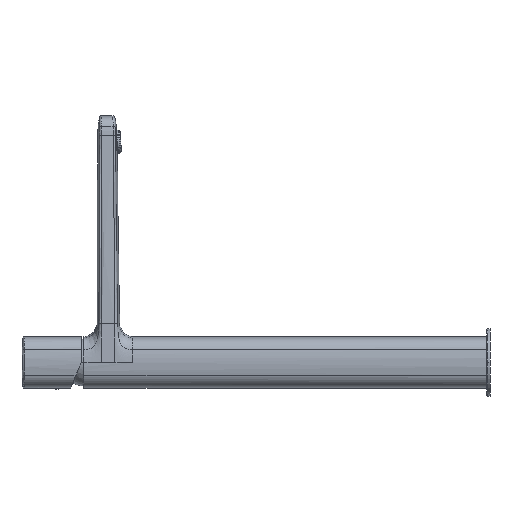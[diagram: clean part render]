
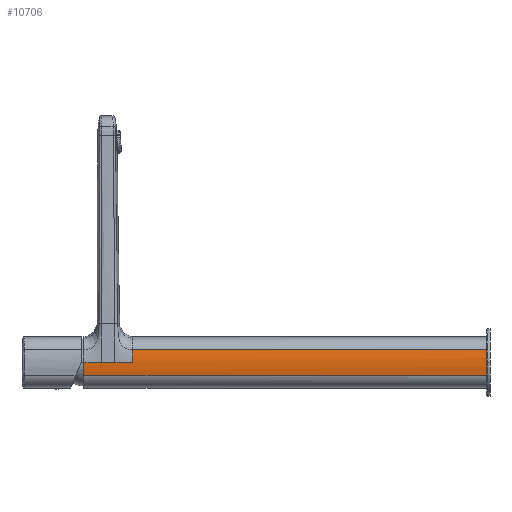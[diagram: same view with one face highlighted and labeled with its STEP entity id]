
A CAD part, left-side view. The second image highlights one B-rep face of the part: STEP entity #10706.
In plain terms, the highlighted cylindrical face has radius 44.997 mm (diameter 89.994 mm), a partial arc.
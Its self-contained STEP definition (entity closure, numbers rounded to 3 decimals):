
#2283=CARTESIAN_POINT('',(24.997,274.277,
0.));
#2284=DIRECTION('',(0.,1.,0.));
#2285=DIRECTION('',(-1.,0.,0.));
#2286=AXIS2_PLACEMENT_3D('',#2283,#2284,#2285);
#2288=DIRECTION('',(0.,-1.,0.));
#2289=VECTOR('',#2288,13.638);
#2290=CARTESIAN_POINT('',(-20.,287.915,
0.));
#2291=LINE('',#2290,#2289);
#2401=CARTESIAN_POINT('',(-18.915,274.277,9.824));
#2720=CARTESIAN_POINT('',(24.997,312.,
0.));
#2721=DIRECTION('',(0.,1.,0.));
#2722=DIRECTION('',(-0.976,0.,-0.218));
#2723=AXIS2_PLACEMENT_3D('',#2720,#2721,#2722);
#2745=DIRECTION('',(0.,1.,0.));
#2746=VECTOR('',#2745,312.);
#2747=CARTESIAN_POINT('',(-18.915,0.,-9.824));
#2748=LINE('',#2747,#2746);
#2767=CARTESIAN_POINT('',(24.997,0.,0.));
#2768=DIRECTION('',(0.,-1.,0.));
#2769=DIRECTION('',(-0.976,0.,0.218));
#2770=AXIS2_PLACEMENT_3D('',#2767,#2768,#2769);
#2772=DIRECTION('',(0.,1.,0.));
#2773=VECTOR('',#2772,10.446);
#2774=CARTESIAN_POINT('',(-20.,287.915,
0.));
#2775=LINE('',#2774,#2773);
#2776=DIRECTION('',(0.,1.,0.));
#2777=VECTOR('',#2776,274.277);
#2778=CARTESIAN_POINT('',(-18.915,0.,9.824));
#2779=LINE('',#2778,#2777);
#2807=CARTESIAN_POINT('',(-20.,298.362,
0.));
#2817=DIRECTION('',(0.,-1.,0.));
#2818=VECTOR('',#2817,13.638);
#2819=CARTESIAN_POINT('',(-20.,312.,
0.));
#2820=LINE('',#2819,#2818);
#3277=CARTESIAN_POINT('',(-20.,287.915,
0.));
#4142=VERTEX_POINT('',#2401);
#4148=VERTEX_POINT('',#3277);
#4149=CARTESIAN_POINT('',(-20.,274.277,
0.));
#4150=VERTEX_POINT('',#4149);
#4153=VERTEX_POINT('',#2807);
#4206=CARTESIAN_POINT('',(-18.915,312.,
-9.824));
#4207=VERTEX_POINT('',#4206);
#4208=CARTESIAN_POINT('',(-20.,312.,
0.));
#4209=VERTEX_POINT('',#4208);
#4404=CARTESIAN_POINT('',(-18.915,0.,9.824));
#4405=VERTEX_POINT('',#4404);
#4412=CARTESIAN_POINT('',(-18.915,0.,-9.824));
#4413=VERTEX_POINT('',#4412);
#10688=CARTESIAN_POINT('',(24.997,-1.501,
0.));
#10689=DIRECTION('',(0.,1.,0.));
#10690=DIRECTION('',(1.,0.,0.));
#10691=AXIS2_PLACEMENT_3D('',#10688,#10689,#10690);
#10692=CYLINDRICAL_SURFACE('',#10691,44.997);
#10693=ORIENTED_EDGE('',*,*,#10438,.T.);
#10694=ORIENTED_EDGE('',*,*,#10635,.T.);
#10695=ORIENTED_EDGE('',*,*,#10605,.T.);
#10697=ORIENTED_EDGE('',*,*,#10696,.T.);
#10699=ORIENTED_EDGE('',*,*,#10698,.F.);
#10700=ORIENTED_EDGE('',*,*,#9969,.T.);
#10701=ORIENTED_EDGE('',*,*,#9967,.T.);
#10703=ORIENTED_EDGE('',*,*,#10702,.F.);
#10704=EDGE_LOOP('',(#10693,#10694,#10695,#10697,#10699,#10700,#10701,#10703));
#10705=FACE_OUTER_BOUND('',#10704,.F.);
#2287=CIRCLE('',#2286,44.997);
#2724=CIRCLE('',#2723,44.997);
#2771=CIRCLE('',#2770,44.997);
#9967=EDGE_CURVE('',#4150,#4142,#2287,.T.);
#9969=EDGE_CURVE('',#4148,#4150,#2291,.T.);
#10438=EDGE_CURVE('',#4405,#4413,#2771,.T.);
#10605=EDGE_CURVE('',#4207,#4209,#2724,.T.);
#10635=EDGE_CURVE('',#4413,#4207,#2748,.T.);
#10696=EDGE_CURVE('',#4209,#4153,#2820,.T.);
#10698=EDGE_CURVE('',#4148,#4153,#2775,.T.);
#10702=EDGE_CURVE('',#4405,#4142,#2779,.T.);
#10706=ADVANCED_FACE('',(#10705),#10692,.T.);
